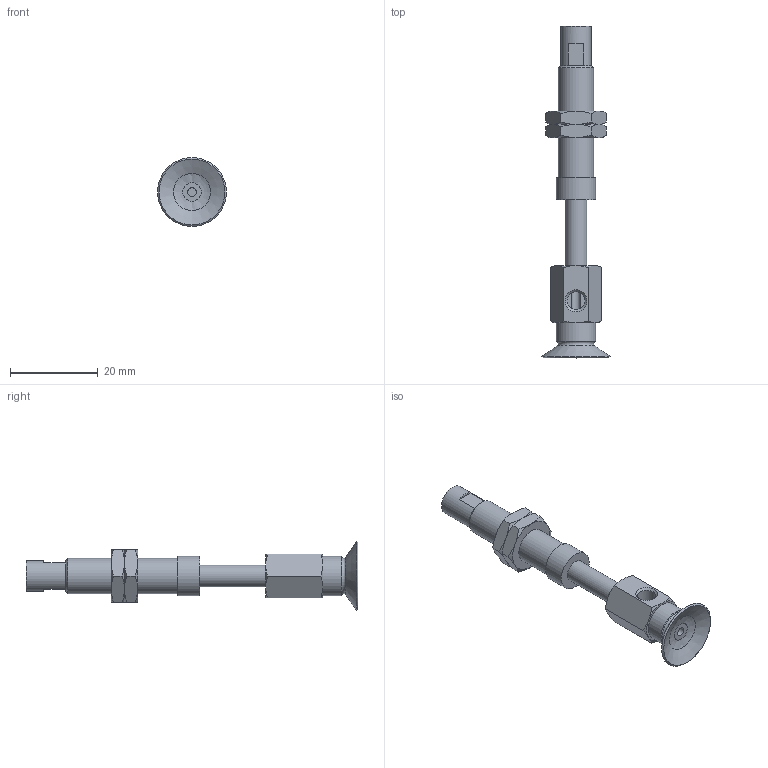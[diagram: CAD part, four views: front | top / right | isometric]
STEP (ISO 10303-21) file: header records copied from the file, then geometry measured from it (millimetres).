
FILE_DESCRIPTION(('STEP AP203'),'1');
FILE_NAME('.stp','2025-04-09T07:06:14',(' '),(' '),'Spatial InterOp 3D',' ',' ');
FILE_SCHEMA(('CONFIG_CONTROL_DESIGN'));
Length unit declared in the file: millimetre
Products named in the file (6): BNABPFYS-15A-15-※; CONNECTOR-15A-15; Nut-15A-15-s; NAPFTS-15A-15-FBODY; NAPFTS-15A-15-MBODY; BPFG-15A-※
Assembly tree (6 placements, depth 2):
  BNABPFYS-15A-15-※
    CONNECTOR-15A-15
    Nut-15A-15-s  x2
    NAPFTS-15A-15-FBODY
    NAPFTS-15A-15-MBODY
    BPFG-15A-※
Bounding box: 15.7 x 75.5 x 15.7 mm (x, y, z)
Volume: 4049.9 mm3; surface area: 4978.9 mm2
Topology: 6 solids, 6 shells, 129 faces, 270 edges, 162 vertices
Faces by surface type: plane 51, cone 51, cylinder 17, torus 9, bspline 1
Full cylindrical faces by diameter (mm): 2 x2, 4 x2, 4.134 x2, 5 x3, 6 x2, 7 x1, 7.188 x2, 8 x1, 9 x2
Entity records: 3131 total; most frequent: CARTESIAN_POINT 792, DIRECTION 430, ORIENTED_EDGE 354, AXIS2_PLACEMENT_3D 195, EDGE_CURVE 177, EDGE_LOOP 162, FACE_OUTER_BOUND 132, VERTEX_POINT 127
